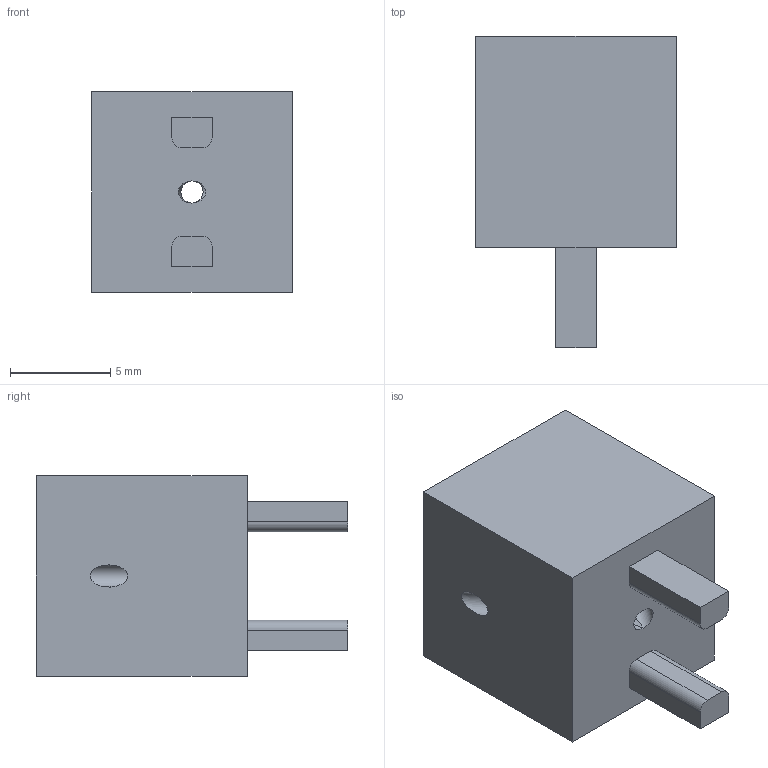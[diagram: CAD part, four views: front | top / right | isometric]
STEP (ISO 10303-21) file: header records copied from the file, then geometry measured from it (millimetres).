
FILE_DESCRIPTION(/* description */ (''),/* implementation_level */ '2;1');
FILE_NAME(/* name */ '_Supp_Fibra_1mm_inclinato_Optimized.step',/* time_stamp */ '2023-03-13T17:28:34+01:00',/* author */ (''),/* organization */ (''),/* preprocessor_version */ 'ST-DEVELOPER v19.2',/* originating_system */ 'Autodesk Translation Framework v11.17.0.187',/* authorisation */ '');
FILE_SCHEMA (('AUTOMOTIVE_DESIGN { 1 0 10303 214 3 1 1 }'));
Length unit declared in the file: millimetre
Products named in the file (1): _Supp_Fibra_1mm_inclinato_Optimized
Bounding box: 10 x 15.5 x 10 mm (x, y, z)
Volume: 1054.3 mm3; surface area: 767.1 mm2
Topology: 1 solids, 1 shells, 23 faces, 60 edges, 39 vertices
Faces by surface type: plane 16, cylinder 7
Full cylindrical faces by diameter (mm): 1.1 x3
Entity records: 752 total; most frequent: DIRECTION 125, CARTESIAN_POINT 123, ORIENTED_EDGE 120, EDGE_CURVE 60, LINE 43, VECTOR 43, AXIS2_PLACEMENT_3D 41, VERTEX_POINT 39
